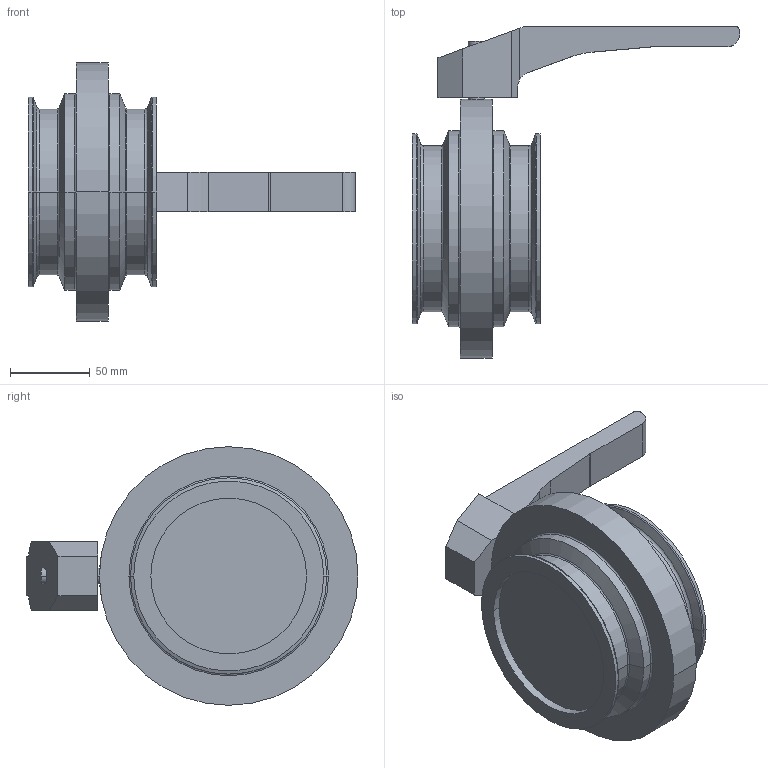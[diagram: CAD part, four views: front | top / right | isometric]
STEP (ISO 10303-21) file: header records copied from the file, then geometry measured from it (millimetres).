
FILE_DESCRIPTION(('OneSpaceDesigner STEP Export'),'2;1');
FILE_NAME('SV1-4zoll-H-12CL-vereint.stp','2007-04-20T11:36:29',(''),(''),'OneSpace Designer STEP processor for AP214 (Solid Model)','OneSpace Modeling 15.00 06-Feb-2007 (C) CoCreate Software GmbH','');
FILE_SCHEMA(('AUTOMOTIVE_DESIGN { 1 0 10303 214 1 1 1 1 }'));
Length unit declared in the file: millimetre
Products named in the file (3): SV1-4zoll-H-12CL; Handhebel-SV-40-100; SV1-4zoll-H-12CL-vereint
Assembly tree (2 placements, depth 2):
  SV1-4zoll-H-12CL-vereint
    Handhebel-SV-40-100
    SV1-4zoll-H-12CL
Bounding box: 205 x 208 x 162 mm (x, y, z)
Volume: 1058289.3 mm3; surface area: 102642.2 mm2
Topology: 2 solids, 2 shells, 76 faces, 167 edges, 100 vertices
Faces by surface type: cylinder 27, plane 25, torus 16, cone 8
Entity records: 2283 total; most frequent: CARTESIAN_POINT 683, ORIENTED_EDGE 334, DIRECTION 303, EDGE_CURVE 167, AXIS2_PLACEMENT_3D 113, VERTEX_POINT 100, EDGE_LOOP 81, VECTOR 77
